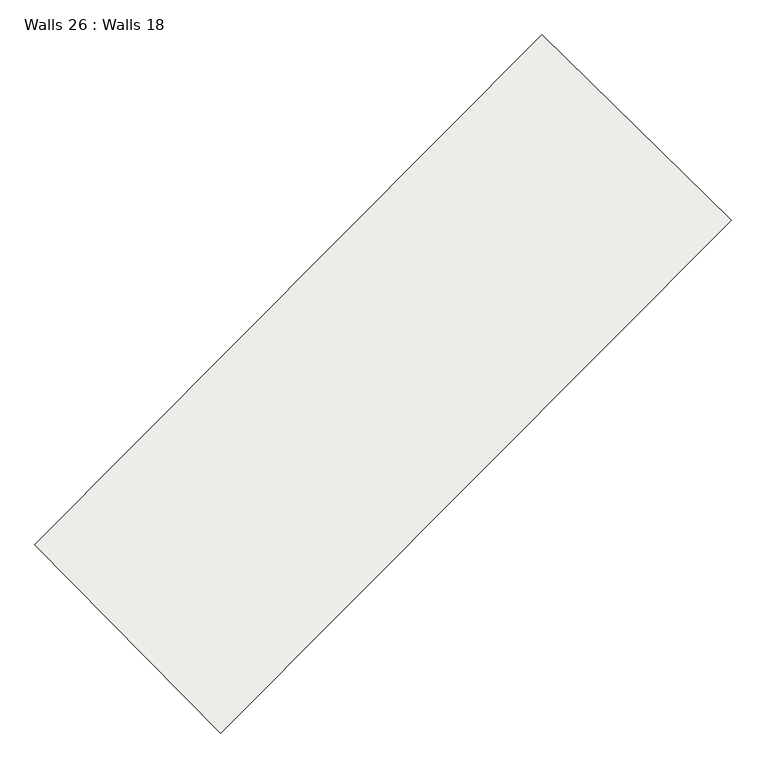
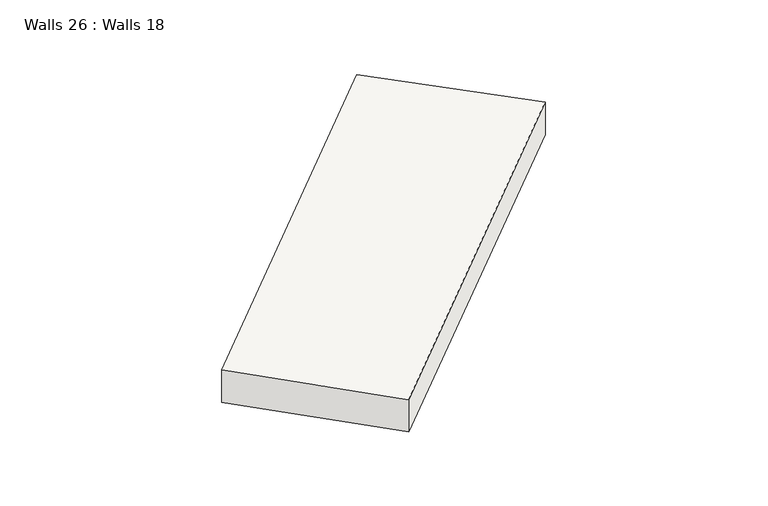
"""IFC4 building model written with IfcOpenShell, lengths in millimetres: slab geometry, Walls 26 : Walls 18."""

from ifc_helpers import new_model, si_unit, frame, origin, place, context, project, spatial, source, transform, mapped, element, save
from ifc_brep_helpers import plane_surface, spline_curve, spline_surface, advanced_brep


def walls_26_walls_18_2b7b498c(model_context):
    return source(origin(), model_context, "Body", "AdvancedBrep", [
        advanced_brep(
        [(-231792.2727411, -394968.797098, 634760.0), (-234080.791211, -392732.1292163, 634760.0), (-234080.791211, -392732.1292163, 635410.0), (-231792.2727411, -394968.797098, 635410.0), (-237963.0847369, -401165.143075, 634690.0), (-237963.0847369, -401165.143075, 635340.0), (-240206.5048598, -398888.598224, 635340.0), (-240206.5048598, -398888.598224, 634690.0)],
        [
            (0, 1),
            (1, 2),
            (2, 3),
            (3, 0),
            (4, 5),
            (5, 6),
            (6, 7),
            (7, 4),
            (4, 0, spline_curve(3, [(-237963.0847369, -401165.143075, 634690.0), (-235886.807010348, -399119.076101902, 634713.333333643), (-233829.748689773, -397053.505953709, 634736.666666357), (-231792.2727411, -394968.797098, 634760.0)], [4, 4], [0.0, 28.691916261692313])),
            (3, 5, spline_curve(3, [(-231792.2727411, -394968.797098, 635410.0), (-233829.748689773, -397053.505953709, 635386.666666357), (-235886.807010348, -399119.076101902, 635363.333333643), (-237963.0847369, -401165.143075, 635340.0)], [4, 4], [0.0, 28.691916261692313])),
            (7, 1, spline_curve(3, [(-240206.5048598, -398888.598224, 634690.0), (-238145.375845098, -396855.673565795, 634713.333332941), (-236103.351295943, -394803.396416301, 634736.666667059), (-234080.791211, -392732.1292163, 634760.0)], [4, 4], [0.0, 28.59336445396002])),
            (6, 2, spline_curve(3, [(-240206.5048598, -398888.598224, 635340.0), (-238145.375845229, -396855.673566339, 635363.333333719), (-236103.351296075, -394803.396416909, 635386.666666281), (-234080.791211, -392732.1292163, 635410.0)], [4, 4], [0.0, 28.494814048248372])),
        ],
        [
            plane_surface(frame((-232936.531976, -393850.4631571, 635085.0), z_axis=(0.6989587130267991, 0.7151620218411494, 0.0), x_axis=(-0.7151620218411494, 0.6989587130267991, 0.0))),
            plane_surface(frame((-239084.7947983, -400026.8706495, 635015.0), z_axis=(-0.7122697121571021, -0.7019058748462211, 0.0), x_axis=(-0.7019058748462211, 0.7122697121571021, 0.0))),
            spline_surface(3, 3, [[(-237963.0847369, -401165.143075, 635340.0), (-235886.807010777, -399119.076102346, 635363.333333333), (-233829.748689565, -397053.505953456, 635386.666666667), (-231792.2727411, -394968.797098, 635410.0)], [(-237963.0847369, -401165.143075, 635123.333333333), (-235886.807010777, -399119.076102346, 635146.666666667), (-233829.748689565, -397053.505953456, 635170.0), (-231792.2727411, -394968.797098, 635193.333333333)], [(-237963.0847369, -401165.143075, 634906.666666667), (-235886.807010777, -399119.076102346, 634930.0), (-233829.748689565, -397053.505953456, 634953.333333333), (-231792.2727411, -394968.797098, 634976.666666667)], [(-237963.0847369, -401165.143075, 634690.0), (-235886.807010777, -399119.076102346, 634713.333333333), (-233829.748689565, -397053.505953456, 634736.666666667), (-231792.2727411, -394968.797098, 634760.0)]], [4, 4], [4, 4], [0.0, 2.1325459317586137], [0.0, 28.691916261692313]),
            spline_surface(3, 3, [[(-237963.0847369, -401165.143075, 634690.0), (-235886.807010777, -399119.076102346, 634713.333333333), (-233829.748689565, -397053.505953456, 634736.666666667), (-231792.2727411, -394968.797098, 634760.0)], [(-238710.891444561, -400406.294791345, 634690.0), (-236639.663288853, -398364.608590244, 634713.333333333), (-234587.616225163, -396303.469441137, 634736.666666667), (-232555.112231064, -394223.241137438, 634760.0)], [(-239458.698152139, -399647.446507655, 634690.0), (-237392.519566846, -397610.141078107, 634713.333333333), (-235345.48376077, -395553.432928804, 634736.666666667), (-233317.951721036, -393477.685176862, 634760.0)], [(-240206.5048598, -398888.598224, 634690.0), (-238145.375844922, -396855.673566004, 634713.333333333), (-236103.351296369, -394803.396416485, 634736.666666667), (-234080.791211, -392732.1292163, 634760.0)]], [4, 4], [4, 4], [0.0, 10.492427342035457], [0.0, 28.59336445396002]),
            spline_surface(3, 3, [[(-240206.5048598, -398888.598224, 634690.0), (-238145.375844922, -396855.673566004, 634713.333333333), (-236103.351296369, -394803.396416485, 634736.666666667), (-234080.791211, -392732.1292163, 634760.0)], [(-240206.5048598, -398888.598224, 634906.666666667), (-238145.375844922, -396855.673566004, 634930.0), (-236103.351296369, -394803.396416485, 634953.333333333), (-234080.791211, -392732.1292163, 634976.666666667)], [(-240206.5048598, -398888.598224, 635123.333333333), (-238145.375844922, -396855.673566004, 635146.666666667), (-236103.351296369, -394803.396416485, 635170.0), (-234080.791211, -392732.1292163, 635193.333333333)], [(-240206.5048598, -398888.598224, 635340.0), (-238145.375844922, -396855.673566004, 635363.333333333), (-236103.351296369, -394803.396416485, 635386.666666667), (-234080.791211, -392732.1292163, 635410.0)]], [4, 4], [4, 4], [0.0, 2.1325459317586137], [0.0, 28.494814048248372]),
            spline_surface(3, 3, [[(-240206.5048598, -398888.598224, 635340.0), (-238145.375844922, -396855.673566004, 635363.333333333), (-236103.351296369, -394803.396416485, 635386.666666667), (-234080.791211, -392732.1292163, 635410.0)], [(-239458.698152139, -399647.446507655, 635340.0), (-237392.519566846, -397610.141078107, 635363.333333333), (-235345.48376077, -395553.432928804, 635386.666666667), (-233317.951721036, -393477.685176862, 635410.0)], [(-238710.891444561, -400406.294791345, 635340.0), (-236639.663288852, -398364.608590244, 635363.333333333), (-234587.616225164, -396303.469441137, 635386.666666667), (-232555.112231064, -394223.241137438, 635410.0)], [(-237963.0847369, -401165.143075, 635340.0), (-235886.807010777, -399119.076102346, 635363.333333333), (-233829.748689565, -397053.505953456, 635386.666666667), (-231792.2727411, -394968.797098, 635410.0)]], [4, 4], [4, 4], [0.0, 10.492427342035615], [0.0, 28.59336445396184]),
        ],
        [
            (0, [[1, 2, 3, 4]]),
            (1, [[5, 6, 7, 8]]),
            (2, [[-5, 9, -4, 10]]),
            (3, [[-8, 11, -1, -9]]),
            (4, [[-7, 12, -2, -11]]),
            (5, [[-6, -10, -3, -12]]),
        ],
    ),
    ])


if __name__ == "__main__":
    model = new_model("IFC4")
    model_context = context("Model", 3, world=origin())
    ifc_project = project(units=[si_unit("LENGTHUNIT", "METRE", prefix="MILLI")], contexts=[model_context])
    site = spatial("IfcSite", under=ifc_project)
    building = spatial("IfcBuilding", under=site)
    placement = place(None, origin())
    walls_26_walls_18_shape = walls_26_walls_18_2b7b498c(model_context)
    element("IfcSlab", 1, ObjectType="Walls 26 : Walls 18", at=placement, inside=building, context=model_context, shape_type="MappedRepresentation", body=[
        mapped(walls_26_walls_18_shape, transform((0.0, 0.0, 0.0), x_axis=(1.0, 0.0, 0.0), y_axis=(0.0, 1.0, 0.0), z_axis=(0.0, 0.0, 1.0))),
    ])
    save(model, "model.ifc")
